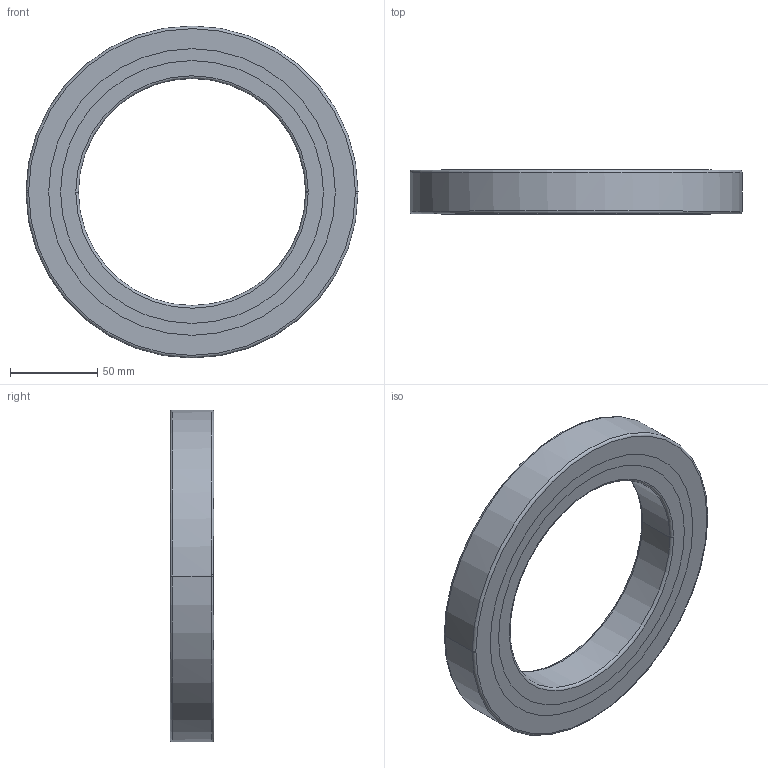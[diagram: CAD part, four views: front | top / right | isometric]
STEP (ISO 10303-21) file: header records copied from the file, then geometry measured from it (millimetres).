
FILE_DESCRIPTION(('no description'),'unknown implementation level');
FILE_NAME('CRBC13025_5.stp',' ',('HIWIN GmbH'),('CADClick - KiM GmbH - www.kimweb.de'),'unknown preprocess','ACIS','unknown authorization');
FILE_SCHEMA(('automotive_design'));
Length unit declared in the file: millimetre
Products named in the file (4): CRBC13025_1; CRBC13025_2; CRBC13025_3; CRBC13025
Bounding box: 190 x 25 x 190 mm (x, y, z)
Volume: 305497.3 mm3; surface area: 89357.8 mm2
Topology: 4 solids, 4 shells, 40 faces, 88 edges, 56 vertices
Faces by surface type: cylinder 16, torus 16, plane 8
Entity records: 2289 total; most frequent: DIRECTION 248, STYLED_ITEM 188, PRESENTATION_STYLE_ASSIGNMENT 188, CARTESIAN_POINT 188, COLOUR_RGB 188, ORIENTED_EDGE 176, AXIS2_PLACEMENT_3D 116, EDGE_CURVE 88
